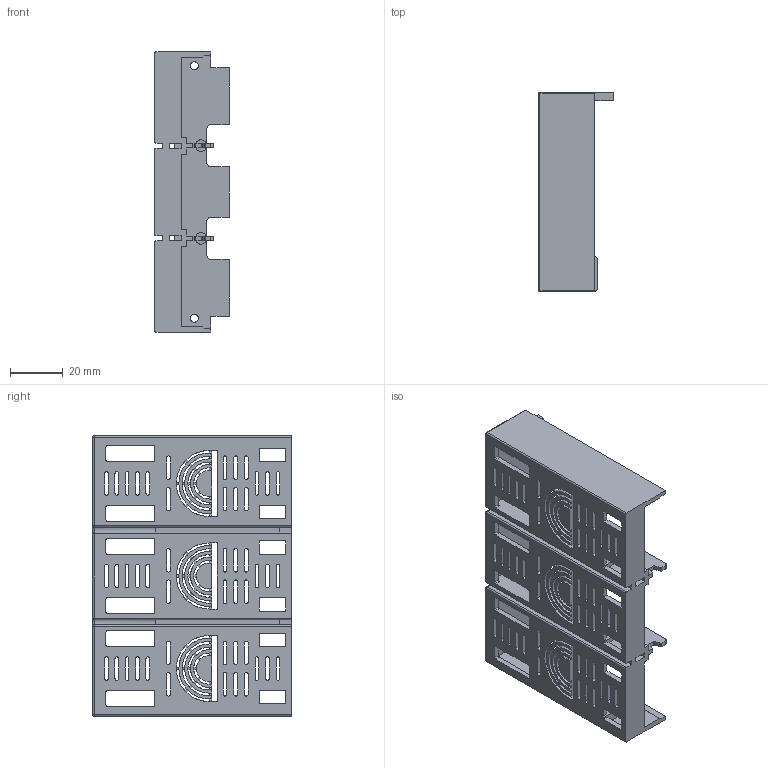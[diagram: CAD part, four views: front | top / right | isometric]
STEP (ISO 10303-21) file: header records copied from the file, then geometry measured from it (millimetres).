
FILE_DESCRIPTION (( 'STEP AP214' ), '1' );
FILE_NAME ('250 SPRC 3P.STEP', '2025-11-27T09:30:12', ( '' ), ( '' ), 'SwSTEP 2.0', 'SolidWorks 2024', '' );
FILE_SCHEMA (( 'AUTOMOTIVE_DESIGN' ));
Length unit declared in the file: millimetre
Products named in the file (1): 250 SPRC 3P
Bounding box: 28.25 x 75.05 x 106 mm (x, y, z)
Volume: 35390 mm3; surface area: 39098.8 mm2
Topology: 1 solids, 1 shells, 734 faces, 2315 edges, 1512 vertices
Faces by surface type: plane 473, cylinder 247, cone 6, sphere 6, torus 2
Entity records: 26210 total; most frequent: CARTESIAN_POINT 4770, ORIENTED_EDGE 4618, DIRECTION 4391, EDGE_CURVE 2309, LINE 1625, VECTOR 1625, VERTEX_POINT 1512, AXIS2_PLACEMENT_3D 1383
